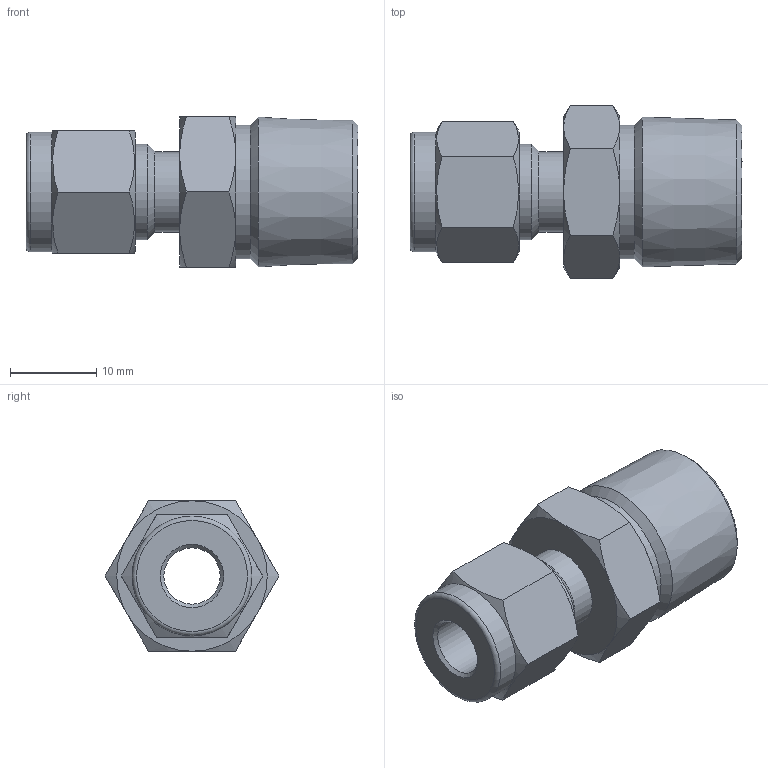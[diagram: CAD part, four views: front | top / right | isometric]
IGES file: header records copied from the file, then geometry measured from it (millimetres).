
Global section: file name: No Iges File Name specified; native system: Autodesk Inventor 2012; preprocessor: AutoDesk Inventor Iges Exporter R2012; author: 硅己绕,,1; organization: 1; date: 20150603.093006; units: millimetre
Bounding box: 38.54 x 20.16 x 17.46 mm (x, y, z)
Volume: 6091.1 mm3; surface area: 3330.8 mm2
Topology: 1 solids, 1 shells, 44 faces, 92 edges, 54 vertices
Faces by surface type: plane 18, cone 18, cylinder 4, revolution 3, torus 1
Full cylindrical faces by diameter (mm): 9.3 x1, 11.112 x1, 13.898 x1, 15.5 x1
